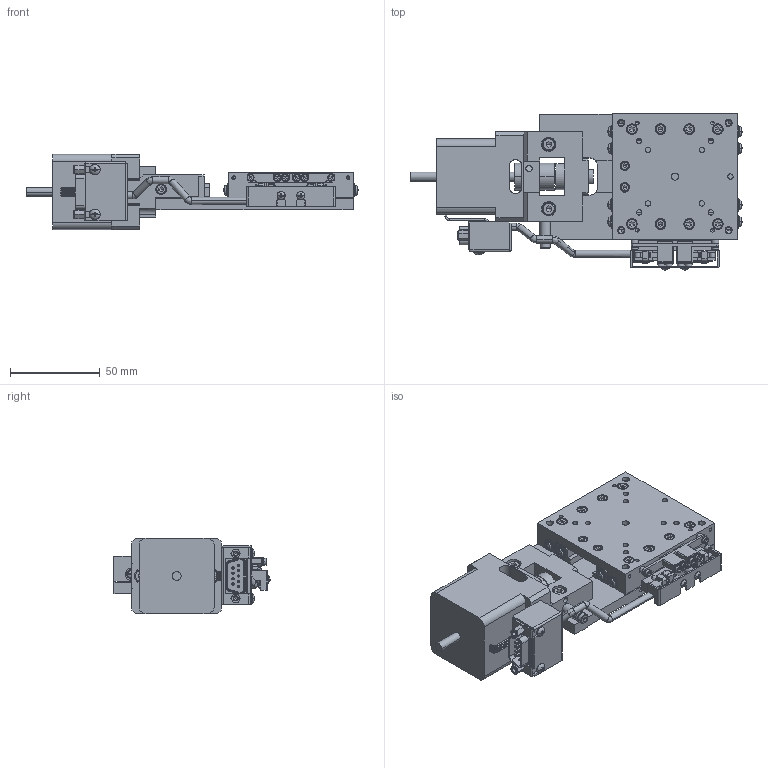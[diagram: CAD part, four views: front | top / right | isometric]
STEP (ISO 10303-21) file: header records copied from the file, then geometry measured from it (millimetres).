
FILE_DESCRIPTION( (''), '2;1');
FILE_NAME ('MVXA07A-R202.stp','2022-03-28T17:21:05',(''),(''),'spGate 17.5.5','','');
FILE_SCHEMA (('AUTOMOTIVE_DESIGN'));
Length unit declared in the file: millimetre
Products named in the file (3): Assembly; MVXA07A-R202-prt0; MVXA07A-R202-prt1
Assembly tree (2 placements, depth 2):
  Assembly
    MVXA07A-R202-prt0
    MVXA07A-R202-prt1
Bounding box: 185.49 x 87.18 x 42 mm (x, y, z)
Volume: 212366.2 mm3; surface area: 77656.8 mm2
Topology: 2 solids, 4 shells, 2856 faces, 7046 edges, 4268 vertices
Faces by surface type: plane 1574, cylinder 764, bspline 464, sphere 54
Entity records: 143338 total; most frequent: CARTESIAN_POINT 22940, ORIENTED_EDGE 13784, DIRECTION 12824, COLOUR_RGB 9750, PRESENTATION_STYLE_ASSIGNMENT 9750, STYLED_ITEM 9750, EDGE_CURVE 6892, DRAUGHTING_PRE_DEFINED_CURVE_FONT 6892
